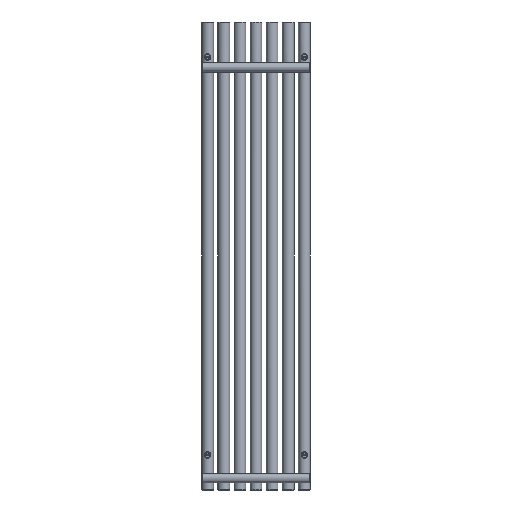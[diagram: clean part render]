
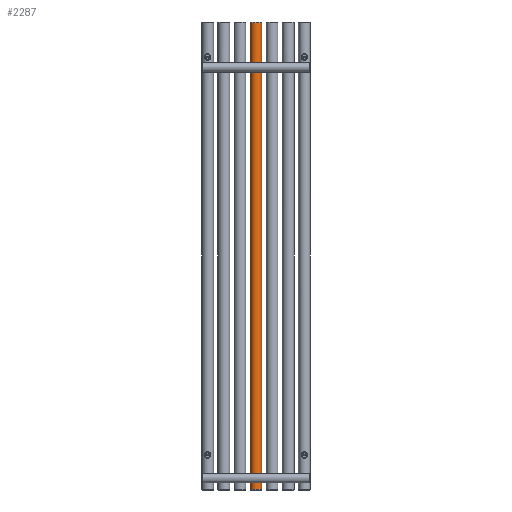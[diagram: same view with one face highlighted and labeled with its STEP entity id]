
A CAD part, front view. The second image highlights one B-rep face of the part: STEP entity #2287.
In plain terms, the highlighted cylindrical face has radius 20 mm (diameter 40 mm), a full revolution.
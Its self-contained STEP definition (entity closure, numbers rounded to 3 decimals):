
#181=FACE_BOUND('',#569,.T.);
#182=FACE_BOUND('',#570,.T.);
#216=LINE('',#4574,#292);
#292=VECTOR('',#2854,20.);
#368=CYLINDRICAL_SURFACE('',#2494,20.);
#405=FACE_OUTER_BOUND('',#568,.T.);
#568=EDGE_LOOP('',(#1619,#1620,#1621,#1622,#1623));
#569=EDGE_LOOP('',(#1624));
#570=EDGE_LOOP('',(#1625));
#754=B_SPLINE_CURVE_WITH_KNOTS('',3,(#4548,#4549,#4550,#4551,#4552,#4553,
#4554,#4555,#4556,#4557,#4558,#4559,#4560,#4561,#4562,#4563,#4564,#4565,
#4566,#4567,#4568),.UNSPECIFIED.,.T.,.F.,(4,1,1,1,1,1,1,1,1,1,1,1,1,1,1,
1,1,1,4),(-5.132,-4.765,-4.399,-4.154,
-3.91,-3.788,-3.666,-3.421,
-3.177,-2.933,-2.688,-2.199,
-1.955,-1.711,-1.466,-1.1,
-0.733,-0.367,0.),.UNSPECIFIED.);
#755=B_SPLINE_CURVE_WITH_KNOTS('',3,(#4578,#4579,#4580,#4581,#4582,#4583,
#4584,#4585,#4586,#4587,#4588,#4589,#4590,#4591,#4592,#4593,#4594,#4595,
#4596,#4597,#4598,#4599,#4600,#4601,#4602,#4603,#4604,#4605,#4606,#4607,
#4608,#4609,#4610,#4611,#4612,#4613,#4614,#4615,#4616,#4617,#4618,#4619,
#4620,#4621,#4622,#4623),.UNSPECIFIED.,.T.,.F.,(4,3,3,3,3,3,3,3,3,3,3,3,
3,3,3,4),(-5.132,-4.765,-4.399,-3.91,
-3.666,-3.421,-3.177,-2.933,
-2.444,-2.199,-1.955,-1.466,
-1.1,-0.733,-0.367,0.),
 .UNSPECIFIED.);
#819=CIRCLE('',#2495,20.);
#820=CIRCLE('',#2496,20.);
#821=CIRCLE('',#2497,20.);
#1011=VERTEX_POINT('',#4546);
#1012=VERTEX_POINT('',#4570);
#1013=VERTEX_POINT('',#4571);
#1014=VERTEX_POINT('',#4573);
#1015=VERTEX_POINT('',#4577);
#1255=EDGE_CURVE('',#1011,#1011,#754,.T.);
#1256=EDGE_CURVE('',#1012,#1013,#819,.T.);
#1257=EDGE_CURVE('',#1012,#1014,#216,.T.);
#1258=EDGE_CURVE('',#1014,#1014,#820,.T.);
#1259=EDGE_CURVE('',#1013,#1012,#821,.T.);
#1260=EDGE_CURVE('',#1015,#1015,#755,.T.);
#1619=ORIENTED_EDGE('',*,*,#1256,.F.);
#1620=ORIENTED_EDGE('',*,*,#1257,.T.);
#1621=ORIENTED_EDGE('',*,*,#1258,.F.);
#1622=ORIENTED_EDGE('',*,*,#1257,.F.);
#1623=ORIENTED_EDGE('',*,*,#1259,.F.);
#1624=ORIENTED_EDGE('',*,*,#1260,.F.);
#1625=ORIENTED_EDGE('',*,*,#1255,.F.);
#2287=ADVANCED_FACE('',(#405,#181,#182),#368,.T.);
#2494=AXIS2_PLACEMENT_3D('',#4569,#2850,#2851);
#2495=AXIS2_PLACEMENT_3D('',#4572,#2852,#2853);
#2496=AXIS2_PLACEMENT_3D('',#4575,#2855,#2856);
#2497=AXIS2_PLACEMENT_3D('',#4576,#2857,#2858);
#2850=DIRECTION('center_axis',(0.,0.,1.));
#2851=DIRECTION('ref_axis',(-1.,0.,0.));
#2852=DIRECTION('center_axis',(0.,0.,1.));
#2853=DIRECTION('ref_axis',(-1.,0.,0.));
#2854=DIRECTION('',(0.,0.,-1.));
#2855=DIRECTION('center_axis',(0.,0.,-1.));
#2856=DIRECTION('ref_axis',(-1.,0.,0.));
#2857=DIRECTION('center_axis',(0.,0.,1.));
#2858=DIRECTION('ref_axis',(-1.,0.,0.));
#4546=CARTESIAN_POINT('',(-165.,-20.,50.1));
#4548=CARTESIAN_POINT('Ctrl Pts',(-165.,-20.,50.1));
#4549=CARTESIAN_POINT('Ctrl Pts',(-166.611,-20.,50.1));
#4550=CARTESIAN_POINT('Ctrl Pts',(-169.837,-19.598,49.587));
#4551=CARTESIAN_POINT('Ctrl Pts',(-173.411,-18.224,47.307));
#4552=CARTESIAN_POINT('Ctrl Pts',(-175.379,-17.114,44.115));
#4553=CARTESIAN_POINT('Ctrl Pts',(-175.993,-16.707,41.396));
#4554=CARTESIAN_POINT('Ctrl Pts',(-175.992,-16.708,39.163));
#4555=CARTESIAN_POINT('Ctrl Pts',(-175.666,-16.921,36.968));
#4556=CARTESIAN_POINT('Ctrl Pts',(-174.649,-17.552,34.429));
#4557=CARTESIAN_POINT('Ctrl Pts',(-172.534,-18.592,32.083));
#4558=CARTESIAN_POINT('Ctrl Pts',(-169.761,-19.505,30.58));
#4559=CARTESIAN_POINT('Ctrl Pts',(-165.581,-20.198,29.637));
#4560=CARTESIAN_POINT('Ctrl Pts',(-161.165,-19.824,30.09));
#4561=CARTESIAN_POINT('Ctrl Pts',(-157.466,-18.588,32.082));
#4562=CARTESIAN_POINT('Ctrl Pts',(-155.351,-17.556,34.43));
#4563=CARTESIAN_POINT('Ctrl Pts',(-153.927,-16.66,37.98));
#4564=CARTESIAN_POINT('Ctrl Pts',(-153.922,-16.66,42.599));
#4565=CARTESIAN_POINT('Ctrl Pts',(-156.137,-18.052,47.027));
#4566=CARTESIAN_POINT('Ctrl Pts',(-160.165,-19.6,49.585));
#4567=CARTESIAN_POINT('Ctrl Pts',(-163.389,-20.,50.1));
#4568=CARTESIAN_POINT('Ctrl Pts',(-165.,-20.,50.1));
#4569=CARTESIAN_POINT('Origin',(-165.,0.,0.));
#4570=CARTESIAN_POINT('',(-145.,0.,1598.));
#4571=CARTESIAN_POINT('',(-185.,0.,1598.));
#4572=CARTESIAN_POINT('Origin',(-165.,0.,1598.));
#4573=CARTESIAN_POINT('',(-145.,0.,2.));
#4574=CARTESIAN_POINT('',(-145.,0.,0.));
#4575=CARTESIAN_POINT('Origin',(-165.,0.,2.));
#4576=CARTESIAN_POINT('Origin',(-165.,0.,1598.));
#4577=CARTESIAN_POINT('',(-165.,-20.,1455.1));
#4578=CARTESIAN_POINT('Ctrl Pts',(-165.,-20.,1455.1));
#4579=CARTESIAN_POINT('Ctrl Pts',(-166.611,-20.,1455.1));
#4580=CARTESIAN_POINT('Ctrl Pts',(-168.22,-19.806,1454.84));
#4581=CARTESIAN_POINT('Ctrl Pts',(-169.698,-19.445,1454.286));
#4582=CARTESIAN_POINT('Ctrl Pts',(-171.176,-19.085,1453.732));
#4583=CARTESIAN_POINT('Ctrl Pts',(-172.523,-18.56,1452.883));
#4584=CARTESIAN_POINT('Ctrl Pts',(-173.563,-18.072,1451.718));
#4585=CARTESIAN_POINT('Ctrl Pts',(-174.949,-17.422,1450.164));
#4586=CARTESIAN_POINT('Ctrl Pts',(-175.79,-16.84,1448.048));
#4587=CARTESIAN_POINT('Ctrl Pts',(-175.955,-16.73,1445.837));
#4588=CARTESIAN_POINT('Ctrl Pts',(-176.038,-16.674,1444.731));
#4589=CARTESIAN_POINT('Ctrl Pts',(-175.952,-16.737,1443.601));
#4590=CARTESIAN_POINT('Ctrl Pts',(-175.707,-16.894,1442.53));
#4591=CARTESIAN_POINT('Ctrl Pts',(-175.461,-17.051,1441.458));
#4592=CARTESIAN_POINT('Ctrl Pts',(-175.056,-17.302,1440.445));
#4593=CARTESIAN_POINT('Ctrl Pts',(-174.501,-17.6,1439.546));
#4594=CARTESIAN_POINT('Ctrl Pts',(-173.945,-17.899,1438.648));
#4595=CARTESIAN_POINT('Ctrl Pts',(-173.24,-18.244,1437.865));
#4596=CARTESIAN_POINT('Ctrl Pts',(-172.425,-18.571,1437.224));
#4597=CARTESIAN_POINT('Ctrl Pts',(-171.61,-18.897,1436.583));
#4598=CARTESIAN_POINT('Ctrl Pts',(-170.686,-19.205,1436.085));
#4599=CARTESIAN_POINT('Ctrl Pts',(-169.701,-19.442,1435.715));
#4600=CARTESIAN_POINT('Ctrl Pts',(-167.732,-19.915,1434.976));
#4601=CARTESIAN_POINT('Ctrl Pts',(-165.521,-20.106,1434.749));
#4602=CARTESIAN_POINT('Ctrl Pts',(-163.394,-19.938,1434.99));
#4603=CARTESIAN_POINT('Ctrl Pts',(-162.33,-19.853,1435.111));
#4604=CARTESIAN_POINT('Ctrl Pts',(-161.287,-19.679,1435.348));
#4605=CARTESIAN_POINT('Ctrl Pts',(-160.301,-19.439,1435.714));
#4606=CARTESIAN_POINT('Ctrl Pts',(-159.314,-19.199,1436.079));
#4607=CARTESIAN_POINT('Ctrl Pts',(-158.385,-18.894,1436.573));
#4608=CARTESIAN_POINT('Ctrl Pts',(-157.572,-18.57,1437.217));
#4609=CARTESIAN_POINT('Ctrl Pts',(-155.945,-17.921,1438.504));
#4610=CARTESIAN_POINT('Ctrl Pts',(-154.784,-17.199,1440.389));
#4611=CARTESIAN_POINT('Ctrl Pts',(-154.29,-16.891,1442.524));
#4612=CARTESIAN_POINT('Ctrl Pts',(-153.92,-16.659,1444.125));
#4613=CARTESIAN_POINT('Ctrl Pts',(-153.925,-16.661,1445.867));
#4614=CARTESIAN_POINT('Ctrl Pts',(-154.295,-16.892,1447.474));
#4615=CARTESIAN_POINT('Ctrl Pts',(-154.665,-17.123,1449.081));
#4616=CARTESIAN_POINT('Ctrl Pts',(-155.399,-17.585,1450.554));
#4617=CARTESIAN_POINT('Ctrl Pts',(-156.438,-18.075,1451.717));
#4618=CARTESIAN_POINT('Ctrl Pts',(-157.477,-18.565,1452.88));
#4619=CARTESIAN_POINT('Ctrl Pts',(-158.822,-19.083,1453.734));
#4620=CARTESIAN_POINT('Ctrl Pts',(-160.3,-19.442,1454.289));
#4621=CARTESIAN_POINT('Ctrl Pts',(-161.778,-19.8,1454.844));
#4622=CARTESIAN_POINT('Ctrl Pts',(-163.389,-20.,1455.1));
#4623=CARTESIAN_POINT('Ctrl Pts',(-165.,-20.,1455.1));
